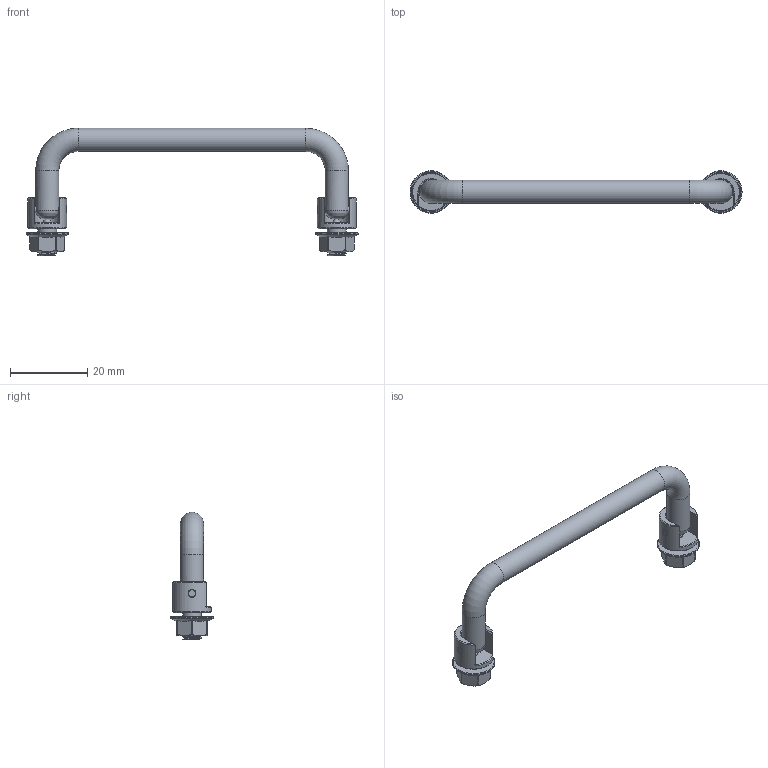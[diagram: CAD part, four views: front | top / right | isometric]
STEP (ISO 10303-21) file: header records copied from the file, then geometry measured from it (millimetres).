
FILE_DESCRIPTION(/* description */ (''),/* implementation_level */ '2;1');
FILE_NAME(/* name */ '\\SYNOLOGYNAS\web\db2\A-GDS6-75\\X2\B3C4BA74C218C815\X0\\A-GDS6-75.stp',/* time_stamp */ '2023-12-07T11:29:42+09:00',/* author */ ('user'),/* organization */ (''),/* preprocessor_version */ 'ST-DEVELOPER v15.6',/* originating_system */ 'Autodesk Inventor 2015',/* authorisation */ '');
FILE_SCHEMA (('AUTOMOTIVE_DESIGN { 1 0 10303 214 3 1 1 }'));
Length unit declared in the file: millimetre
Products named in the file (7): A-GDS6-75_P; A-GDS6-75_B-1; A-GDS6-75_B-2; A-GDS6-75_B-3; A-GDS6-75_B; A-GDS6-75_N; A-GDS6-75
Bounding box: 86 x 11 x 33 mm (x, y, z)
Volume: 4303.7 mm3; surface area: 4418 mm2
Topology: 9 solids, 9 shells, 201 faces, 739 edges, 552 vertices
Faces by surface type: cylinder 93, plane 64, bspline 20, torus 10, cone 10, sphere 4
Full cylindrical faces by diameter (mm): 1.4 x2, 1.8 x4, 1.933 x12, 2 x4, 2.075 x24, 4.901 x14, 6 x3, 10 x2, 11 x2
Entity records: 14866 total; most frequent: CARTESIAN_POINT 12343, ORIENTED_EDGE 566, DIRECTION 364, EDGE_CURVE 283, VERTEX_POINT 232, B_SPLINE_CURVE_WITH_KNOTS 168, AXIS2_PLACEMENT_3D 160, EDGE_LOOP 125
